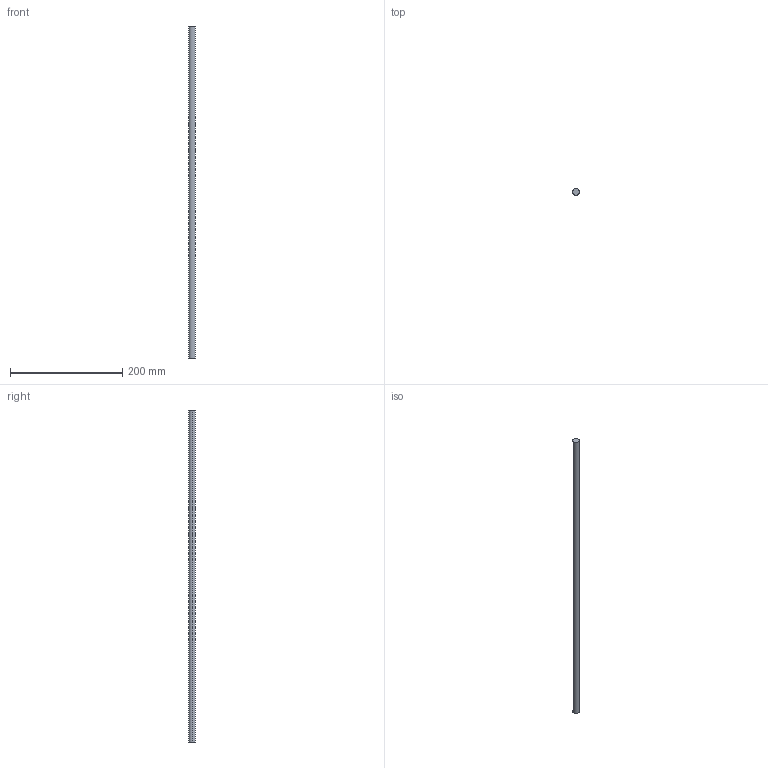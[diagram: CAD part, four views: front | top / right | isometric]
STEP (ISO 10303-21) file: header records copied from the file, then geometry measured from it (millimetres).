
FILE_DESCRIPTION (( 'STEP AP214' ), '1' );
FILE_NAME ('Magic Reling quer - S18_S19 - 700.step', '2010-09-07T14:56:12', ( 'grass' ), ( '' ), 'SwSTEP 2.0', 'SolidWorks 2010', '' );
FILE_SCHEMA (( 'AUTOMOTIVE_DESIGN' ));
Length unit declared in the file: millimetre
Products named in the file (1): Magic Reling quer - S18_S19 - 700
Bounding box: 12 x 12 x 591 mm (x, y, z)
Volume: 66840.5 mm3; surface area: 22506.4 mm2
Topology: 1 solids, 1 shells, 4 faces, 6 edges, 4 vertices
Faces by surface type: cylinder 2, plane 2
Entity records: 128 total; most frequent: DIRECTION 20, CARTESIAN_POINT 15, ORIENTED_EDGE 12, AXIS2_PLACEMENT_3D 9, EDGE_CURVE 6, EDGE_LOOP 4, FACE_OUTER_BOUND 4, CIRCLE 4
